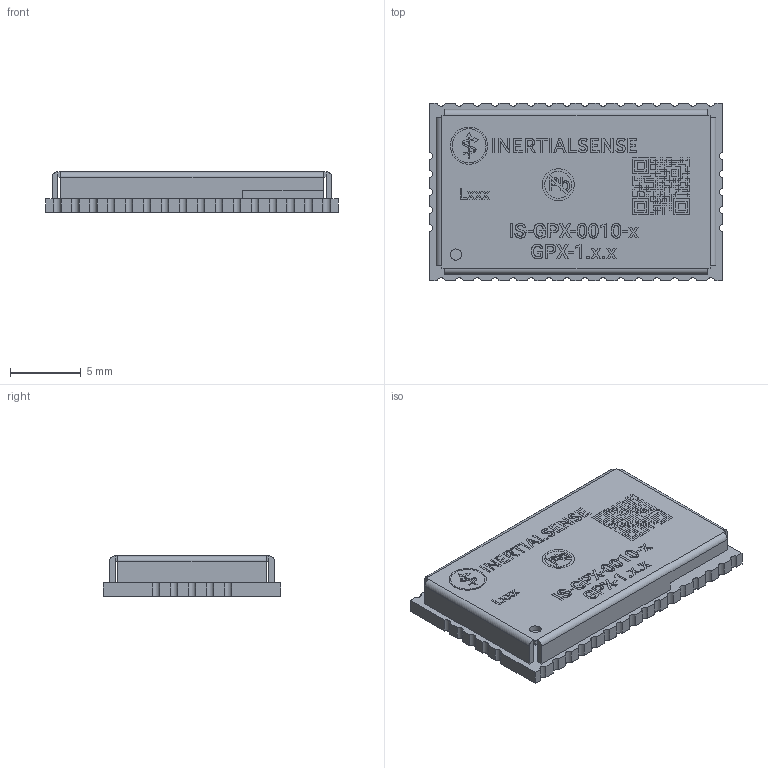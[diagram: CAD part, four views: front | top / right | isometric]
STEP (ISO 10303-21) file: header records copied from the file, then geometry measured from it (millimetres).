
FILE_DESCRIPTION(('Open CASCADE Model'),'2;1');
FILE_NAME('Open CASCADE Shape Model','2023-05-04T18:02:20',('Author'),( 'Open CASCADE'),'Open CASCADE STEP processor 7.5','Open CASCADE 7.5' ,'Unknown');
FILE_SCHEMA(('AUTOMOTIVE_DESIGN { 1 0 10303 214 1 1 1 1 }'));
Length unit declared in the file: millimetre
Products named in the file (93): PCB; Board; Open CASCADE STEP translator 7.5 1.1.1; SHLD1; GPX-1.x.x Shield; Can; Component117; Component56; Component59; Component60; Component89; Component90; Component91; Component61; Component58; Component62; Component107; Component110; Component95; Component111; Component112; Component105; Component113; Component101; Component114; Component94; Component96; Component97; Component102; Component104; Component98; Component100; Component106; Component108; Component99; Component109; Component103; Component92; Component93; Component86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
Assembly tree (137 placements, depth 5):
  PCB
    Board
      Open CASCADE STEP translator 7.5 1.1.1
    SHLD1
      GPX-1.x.x Shield
        Can
        Component117
          Component56
          Component59
          Component60
          Component89
          Component90
          Component91
          Component61
          Component58
          Component62
          Component107
          Component110
          Component95
          Component111
          Component112
          Component105
          Component113
          Component101
          Component114
          Component94
          Component96
          Component97
          Component102
          Component104
          Component98
          Component100
          Component106
          Component108
          Component99
          Component109
          Component103
          Component92
          Component93
          Component86
          Component88
          Component87
          Component57
          Component76
          Component79
          Component73
          Component83
          Component68
          Component67
          Component69
          Component66
          Component71
          Component63
          Component72
          Component74
          Component75
          Component77
          Component64
          Component78
          Component70
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Bounding box: 20.65 x 12.5 x 2.87 mm (x, y, z)
Volume: 365.3 mm3; surface area: 1389.2 mm2
Topology: 151 solids, 151 shells, 2285 faces, 5933 edges, 3944 vertices
Faces by surface type: plane 1757, bspline 481, cylinder 47
Full cylindrical faces by diameter (mm): 0.8 x1
Entity records: 58162 total; most frequent: CARTESIAN_POINT 15179, ORIENTED_EDGE 9214, DIRECTION 6559, EDGE_CURVE 4607, LINE 3551, VECTOR 3551, VERTEX_POINT 3060, FACE_BOUND 1797
